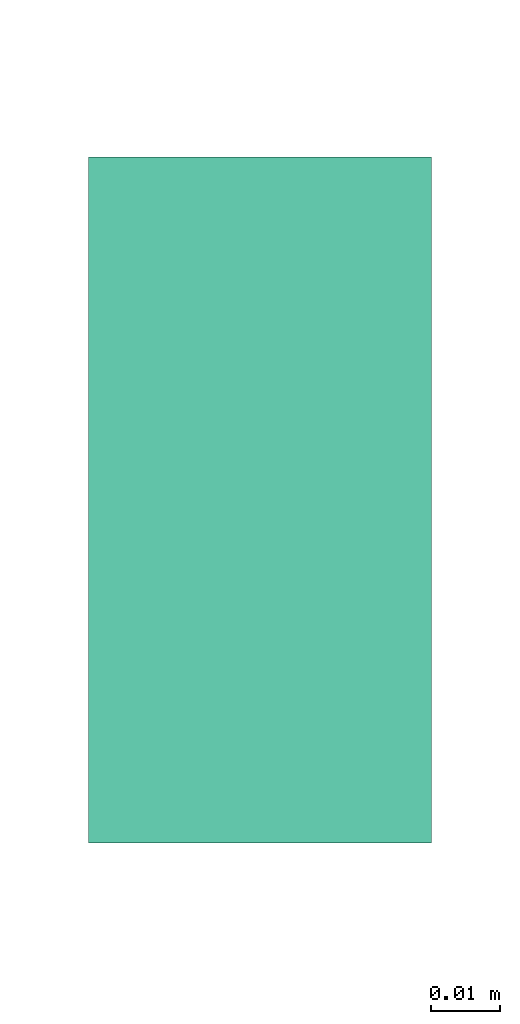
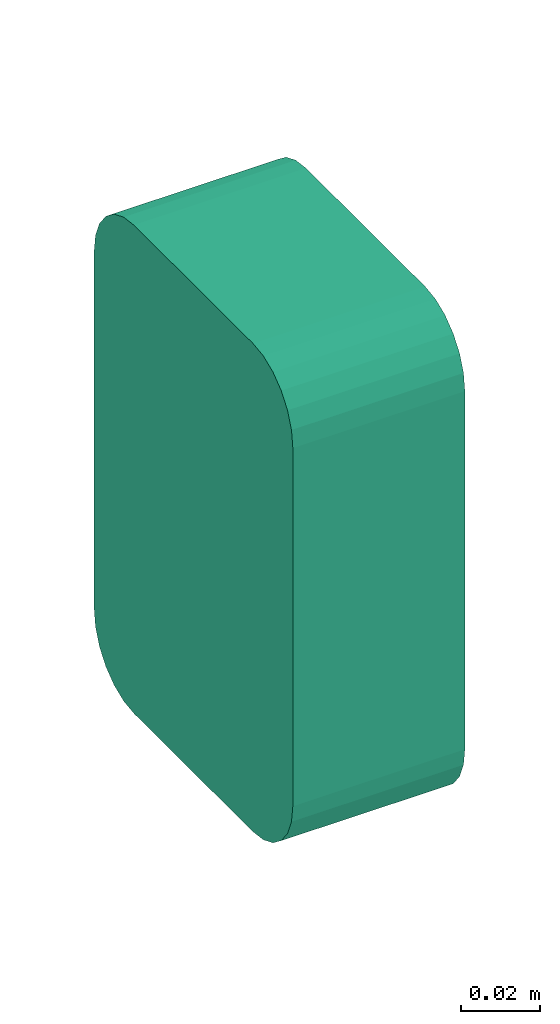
# One storey, part 2 of 3: 1 flow terminal.
"""IFC2X3 building model written with IfcOpenShell, lengths in millimetres."""

from ifc_helpers import new_model, entity, si_unit, converted_unit, derived_unit, direction, frame, origin_with_axes, place, context, subcontext, project, spatial, open_shell, surface_model, source, transform, mapped, type_object, element, save


model = new_model("IFC2X3")

# Units and contexts
model_context = context("Model", 3, precision=0.01, world=frame((0.0, 4.29681676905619e-09, 0.0)), true_north=direction((4.01073788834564e-13, 1.0)))
plan_context = context("Plan", 3, precision=0.01, world=frame((0.0, 4.29681676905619e-09, 0.0)), true_north=direction((4.01073788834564e-13, 1.0)))
body_context = subcontext(model_context, "Body", "Model", "MODEL_VIEW")
ifc_project = project(units=[converted_unit("PLANEANGLEUNIT", "DEGREE", entity("IfcPositiveLengthMeasure", 0.0174532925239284), si_unit("PLANEANGLEUNIT", "RADIAN"), dimensions=[0, 0, 0, 0, 0, 0, 0]), si_unit("AREAUNIT", "SQUARE_METRE"), si_unit("LENGTHUNIT", "METRE", prefix="MILLI"), si_unit("MASSUNIT", "GRAM", prefix="KILO"), si_unit("POWERUNIT", "WATT"), si_unit("PRESSUREUNIT", "PASCAL", prefix="KILO"), si_unit("FORCEUNIT", "NEWTON", prefix="KILO"), si_unit("ELECTRICVOLTAGEUNIT", "VOLT"), si_unit("ELECTRICCURRENTUNIT", "AMPERE"), si_unit("THERMODYNAMICTEMPERATUREUNIT", "DEGREE_CELSIUS"), si_unit("TIMEUNIT", "SECOND"), si_unit("VOLUMEUNIT", "CUBIC_METRE"), derived_unit("LINEARVELOCITYUNIT", [(si_unit("LENGTHUNIT", "METRE"), 1), (si_unit("TIMEUNIT", "SECOND"), -1)]), derived_unit("VOLUMETRICFLOWRATEUNIT", [(si_unit("VOLUMEUNIT", "CUBIC_METRE"), 1), (si_unit("TIMEUNIT", "SECOND"), -1)]), derived_unit("THERMALTRANSMITTANCEUNIT", [(si_unit("POWERUNIT", "WATT"), 1), (si_unit("THERMODYNAMICTEMPERATUREUNIT", "KELVIN"), -1), (si_unit("AREAUNIT", "SQUARE_METRE"), -1)]), derived_unit("SOUNDPRESSUREUNIT", [(si_unit("PRESSUREUNIT", "PASCAL"), 1)])], contexts=[model_context, plan_context])

# Site, building, storey
site_placement = place(None, frame((0.0, -4.29681676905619e-09, 0.0), z_axis=(0.0, 0.0, 1.0), x_axis=(1.0, 0.0, 0.0)))
site = spatial("IfcSite", under=ifc_project, at=site_placement, Name="ENGM", CompositionType="ELEMENT")
building_placement = place(site_placement, frame((0.0, 4.29681676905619e-09, 0.0), z_axis=(0.0, 0.0, 1.0), x_axis=(1.0, 0.0, 0.0)))
building = spatial("IfcBuilding", under=site, at=building_placement, Name="TS", CompositionType="ELEMENT")
storey_placement = place(building_placement, frame((0.0, 0.0, 210900.0), z_axis=(0.0, 0.0, 1.0), x_axis=(1.0, 0.0, 0.0)))
storey = spatial("IfcBuildingStorey", under=building, at=storey_placement, Name="Nivå F", CompositionType="ELEMENT", Elevation=210900.0)

# Flow terminal
electric_appliance_type = type_object("IfcElectricApplianceType", Name="Høyttaler påvegg", PredefinedType="NOTDEFINED")
shared_shape = source(origin_with_axes(), body_context, "Body", "SurfaceModel", [
    surface_model("IfcShellBasedSurfaceModel", [(45.2, 28.66025, 35.0), (45.2, 30.0, 30.0), (45.2, 29.65926, 32.58819), (45.2, 20.0, 40.0), (45.2, 27.07107, 37.07107), (45.2, 25.0, 38.66025), (45.2, 22.58819, 39.65926), (45.2, 15.0, 38.66025), (45.2, 29.65926, 27.41181), (45.2, 27.07107, 22.92893), (45.2, 28.66025, 25.0), (45.2, 20.0, 20.0), (45.2, 25.0, 21.33974), (45.2, 22.58819, 20.34074), (45.2, 11.33975, 35.0), (45.2, 12.92893, 37.07107), (45.2, 10.34074, 32.58819), (45.2, 10.0, 30.0), (45.2, 10.34074, 27.41181), (45.2, 17.41181, 20.34074), (45.2, 12.92893, 22.92893), (45.2, 15.0, 21.33974), (45.2, 11.33975, 25.0), (45.2, 17.41181, 39.65926), (45.2, -11.33975, 45.0), (45.2, -10.0, 40.0), (45.2, -10.34074, 42.58819), (45.2, -15.0, 48.66025), (45.2, -12.92893, 47.07107), (45.2, -15.0, 31.33975), (45.2, -17.41181, 49.65926), (45.2, -27.07107, 32.92893), (45.2, -10.34074, 37.41181), (45.2, -11.33975, 35.0), (45.2, -12.92893, 32.92893), (45.2, -20.0, 30.0), (45.2, -17.41181, 30.34074), (45.2, -20.0, 50.0), (45.2, -22.58819, 49.65926), (45.2, -25.0, 48.66025), (45.2, -27.07107, 47.07107), (45.2, -29.65926, 42.58819), (45.2, -30.0, 40.0), (45.2, -28.66025, 45.0), (45.2, -22.58819, 30.34074), (45.2, -25.0, 31.33975), (45.2, -28.66025, 35.0), (45.2, -29.65926, 37.41181), (45.0, 10.0, 30.0), (45.0, 10.34074, 32.58819), (45.0, 11.33975, 35.0), (45.0, 12.92893, 22.92893), (45.0, 15.0, 38.66025), (45.0, 12.92893, 37.07107), (45.0, 29.65926, 27.41181), (45.0, 20.0, 20.0), (45.0, 10.34074, 27.41181), (45.0, 11.33975, 25.0), (45.0, 17.41181, 20.34074), (45.0, 15.0, 21.33974), (45.0, 17.41181, 39.65926), (45.0, 20.0, 40.0), (45.0, 22.58819, 39.65926), (45.0, 25.0, 38.66025), (45.0, 28.66025, 35.0), (45.0, 30.0, 30.0), (45.0, 27.07107, 37.07107), (45.0, 29.65926, 32.58819), (45.0, 27.07107, 22.92893), (45.0, 25.0, 21.33974), (45.0, 22.58819, 20.34074), (45.0, 28.66025, 25.0), (45.0, -29.65926, 42.58819), (45.0, -27.07107, 32.92893), (45.0, -30.0, 40.0), (45.0, -27.07107, 47.07107), (45.0, -28.66025, 45.0), (45.0, -25.0, 48.66025), (45.0, -22.58819, 49.65926), (45.0, -28.66025, 35.0), (45.0, -29.65926, 37.41181), (45.0, -22.58819, 30.34074), (45.0, -25.0, 31.33975), (45.0, -20.0, 30.0), (45.0, -17.41181, 30.34074), (45.0, -17.41181, 49.65926), (45.0, -15.0, 48.66025), (45.0, -11.33975, 45.0), (45.0, -15.0, 31.33975), (45.0, -12.92893, 47.07107), (45.0, -10.34074, 42.58819), (45.0, -11.33975, 35.0), (45.0, -12.92893, 32.92893), (45.0, -10.34074, 37.41181), (45.0, -10.0, 40.0), (45.0, -20.0, 50.0), (45.2, 38.63703, -9.64724), (45.2, 34.64102, 0.0), (45.2, 28.28427, 8.28427), (45.2, 20.0, 14.64102), (45.2, 10.35276, 18.63703), (45.2, 0.0, 20.0), (45.2, 28.28427, -48.28427), (45.2, 38.63703, -30.35276), (45.2, 34.64102, -40.0), (45.2, 40.0, -20.0), (45.2, 10.35276, -58.63703), (45.2, 20.0, -54.64101), (45.2, -20.0, -54.64101), (45.2, -10.35276, 18.63703), (45.2, -20.0, 14.64102), (45.2, -28.28427, 8.28427), (45.2, -34.64102, 0.0), (45.2, -38.63703, -9.64724), (45.2, -40.0, -20.0), (45.2, -28.28427, -48.28427), (45.2, 0.0, -60.0), (45.2, -10.35276, -58.63703), (45.2, -38.63703, -30.35276), (45.2, -34.64102, -40.0), (45.0, -40.0, -20.0), (45.0, -38.63703, -9.64724), (45.0, -34.64102, 0.0), (45.0, -28.28427, -48.28427), (45.0, -28.28427, 8.28427), (45.0, -20.0, 14.64102), (45.0, -10.35276, 18.63703), (45.0, 38.63703, -9.64724), (45.0, -20.0, -54.64101), (45.0, -38.63703, -30.35276), (45.0, -34.64102, -40.0), (45.0, 0.0, -60.0), (45.0, -10.35276, -58.63703), (45.0, 28.28427, -48.28427), (45.0, 0.0, 20.0), (45.0, 10.35276, 18.63703), (45.0, 20.0, 14.64102), (45.0, 28.28427, 8.28427), (45.0, 34.64102, 0.0), (45.0, 10.35276, -58.63703), (45.0, 20.0, -54.64101), (45.0, 38.63703, -30.35276), (45.0, 34.64102, -40.0), (45.0, 40.0, -20.0), (50.0, -46.45448, -64.5), (50.0, -47.32051, -65.0), (50.0, -43.43503, -68.43503), (50.0, -49.31851, -60.17638), (50.0, -50.0, -55.0), (50.0, -48.35259, -59.91756), (50.0, -49.0, -55.0), (50.0, -49.0, 55.0), (50.0, -44.14214, -69.14214), (50.0, -34.91756, -73.35259), (50.0, -35.17638, -74.31852), (50.0, -30.0, -75.0), (50.0, -30.0, -74.0), (50.0, 30.0, -74.0), (50.0, -39.5, -71.45448), (50.0, -40.0, -72.32051), (50.0, -50.0, 55.0), (50.0, -48.35259, 59.91756), (50.0, -49.31851, 60.17638), (50.0, -47.32051, 65.0), (50.0, -46.45448, 64.5), (50.0, -43.43503, 68.43503), (50.0, -44.14214, 69.14214), (50.0, -39.5, 71.45448), (50.0, -40.0, 72.32051), (50.0, -35.17638, 74.31852), (50.0, -34.91756, 73.35259), (50.0, -30.0, 75.0), (50.0, -30.0, 74.0), (50.0, 30.0, 74.0), (50.0, 34.91756, -73.35259), (50.0, 30.0, -75.0), (50.0, 35.17638, -74.31852), (50.0, 39.5, -71.45448), (50.0, 44.14214, -69.14214), (50.0, 43.43503, -68.43503), (50.0, 40.0, -72.32051), (50.0, 47.32051, -65.0), (50.0, 46.45448, -64.5), (50.0, 49.31851, -60.17638), (50.0, 49.0, -55.0), (50.0, 48.35259, -59.91756), (50.0, 50.0, -55.0), (50.0, 49.0, 55.0), (50.0, 40.0, 72.32051), (50.0, 39.5, 71.45448), (50.0, 44.14214, 69.14214), (50.0, 43.43503, 68.43503), (50.0, 35.17638, 74.31852), (50.0, 30.0, 75.0), (50.0, 34.91756, 73.35259), (50.0, 48.35259, 59.91756), (50.0, 50.0, 55.0), (50.0, 49.31851, 60.17638), (50.0, 47.32051, 65.0), (50.0, 46.45448, 64.5), (0.0, 30.0, -75.0), (0.0, 50.0, -55.0), (0.0, 49.31851, -60.17638), (0.0, 47.32051, -65.0), (0.0, 35.17638, -74.31852), (0.0, 40.0, -72.32051), (0.0, 44.14214, -69.14214), (0.0, -50.0, -55.0), (0.0, 50.0, 55.0), (0.0, 47.32051, 65.0), (0.0, 49.31851, 60.17638), (0.0, 40.0, 72.32051), (0.0, 44.14214, 69.14214), (0.0, 30.0, 75.0), (0.0, 35.17638, 74.31852), (0.0, -50.0, 55.0), (0.0, -30.0, -75.0), (0.0, -35.17638, -74.31852), (0.0, -40.0, -72.32051), (0.0, -47.32051, -65.0), (0.0, -49.31851, -60.17638), (0.0, -44.14214, -69.14214), (0.0, -30.0, 75.0), (0.0, -40.0, 72.32051), (0.0, -35.17638, 74.31852), (0.0, -44.14214, 69.14214), (0.0, -49.31851, 60.17638), (0.0, -47.32051, 65.0), (45.0, -48.35259, 59.91756), (45.0, -49.0, 55.0), (45.0, -30.0, 74.0), (45.0, -46.45448, 64.5), (45.0, -43.43503, 68.43503), (45.0, -34.91756, 73.35259), (45.0, -39.5, 71.45448), (45.0, 49.0, -55.0), (45.0, -49.0, -55.0), (45.0, -48.35259, -59.91756), (45.0, -46.45448, -64.5), (45.0, -43.43503, -68.43503), (45.0, -39.5, -71.45448), (45.0, -34.91756, -73.35259), (45.0, -30.0, -74.0), (45.0, 30.0, -74.0), (45.0, 49.0, 55.0), (45.0, 39.5, 71.45448), (45.0, 34.91756, 73.35259), (45.0, 30.0, 74.0), (45.0, 48.35259, 59.91756), (45.0, 46.45448, 64.5), (45.0, 43.43503, 68.43503), (45.0, 39.5, -71.45448), (45.0, 43.43503, -68.43503), (45.0, 34.91756, -73.35259), (45.0, 48.35259, -59.91756), (45.0, 46.45448, -64.5)], [open_shell([[[0, 1, 2]], [[3, 0, 4]], [[5, 6, 3]], [[5, 3, 4]], [[7, 1, 0]], [[8, 9, 10]], [[7, 8, 1]], [[7, 9, 8]], [[9, 11, 12]], [[12, 11, 13]], [[7, 0, 3]], [[11, 9, 7]], [[14, 7, 15]], [[14, 16, 17]], [[14, 17, 7]], [[18, 7, 17]], [[19, 20, 21]], [[20, 19, 11]], [[20, 18, 22]], [[20, 11, 7]], [[7, 18, 20]], [[7, 3, 23]], [[24, 25, 26]], [[27, 24, 28]], [[29, 27, 30]], [[24, 27, 25]], [[30, 31, 29]], [[32, 29, 33]], [[32, 25, 27]], [[33, 29, 34]], [[27, 29, 32]], [[29, 35, 36]], [[30, 37, 38]], [[38, 39, 40]], [[31, 38, 40]], [[41, 42, 40]], [[41, 40, 43]], [[31, 40, 42]], [[44, 31, 45]], [[31, 44, 35]], [[42, 46, 31]], [[35, 29, 31]], [[47, 46, 42]], [[31, 30, 38]], [[48, 49, 50]], [[51, 48, 50]], [[51, 50, 52]], [[52, 50, 53]], [[54, 55, 52]], [[56, 51, 57]], [[56, 48, 51]], [[51, 58, 59]], [[58, 51, 55]], [[52, 55, 51]], [[52, 60, 61]], [[61, 62, 63]], [[61, 63, 64]], [[64, 65, 52]], [[64, 63, 66]], [[65, 64, 67]], [[68, 69, 55]], [[70, 55, 69]], [[68, 54, 71]], [[55, 54, 68]], [[52, 65, 54]], [[52, 61, 64]], [[72, 73, 74]], [[75, 72, 76]], [[75, 77, 78]], [[72, 75, 73]], [[78, 73, 75]], [[74, 79, 80]], [[74, 73, 79]], [[73, 81, 82]], [[81, 73, 83]], [[73, 84, 83]], [[73, 78, 84]], [[84, 78, 85]], [[86, 84, 85]], [[86, 87, 88]], [[87, 86, 89]], [[87, 90, 88]], [[88, 91, 92]], [[88, 84, 86]], [[88, 93, 91]], [[93, 88, 94]], [[90, 94, 88]], [[85, 78, 95]], [[12, 70, 69]], [[13, 55, 70]], [[10, 68, 71]], [[68, 9, 69]], [[54, 8, 71]], [[70, 12, 13]], [[13, 11, 55]], [[8, 10, 71]], [[9, 68, 10]], [[9, 12, 69]], [[1, 8, 54]], [[54, 65, 1]], [[0, 67, 64]], [[65, 67, 2]], [[63, 5, 66]], [[64, 66, 4]], [[6, 63, 62]], [[64, 4, 0]], [[0, 2, 67]], [[3, 6, 62]], [[5, 63, 6]], [[5, 4, 66]], [[61, 3, 62]], [[65, 2, 1]], [[60, 23, 61]], [[52, 7, 60]], [[14, 53, 50]], [[53, 15, 52]], [[50, 49, 16]], [[60, 7, 23]], [[23, 3, 61]], [[16, 14, 50]], [[15, 53, 14]], [[15, 7, 52]], [[17, 16, 49]], [[49, 48, 17]], [[56, 18, 48]], [[57, 22, 56]], [[21, 51, 59]], [[20, 57, 51]], [[59, 58, 19]], [[57, 20, 22]], [[22, 18, 56]], [[11, 19, 58]], [[21, 59, 19]], [[21, 20, 51]], [[55, 11, 58]], [[48, 18, 17]], [[29, 84, 88]], [[36, 83, 84]], [[33, 92, 91]], [[92, 34, 88]], [[93, 32, 91]], [[84, 29, 36]], [[36, 35, 83]], [[32, 33, 91]], [[34, 92, 33]], [[34, 29, 88]], [[25, 32, 93]], [[93, 94, 25]], [[26, 94, 90]], [[87, 24, 90]], [[86, 27, 89]], [[87, 89, 28]], [[30, 86, 85]], [[87, 28, 24]], [[24, 26, 90]], [[37, 30, 85]], [[27, 86, 30]], [[27, 28, 89]], [[95, 37, 85]], [[94, 26, 25]], [[38, 95, 78]], [[77, 39, 78]], [[43, 75, 76]], [[75, 40, 77]], [[72, 41, 76]], [[78, 39, 38]], [[38, 37, 95]], [[41, 43, 76]], [[40, 75, 43]], [[40, 39, 77]], [[42, 41, 72]], [[72, 74, 42]], [[80, 47, 74]], [[79, 46, 80]], [[45, 73, 82]], [[31, 79, 73]], [[82, 81, 44]], [[79, 31, 46]], [[46, 47, 80]], [[35, 44, 81]], [[45, 82, 44]], [[45, 31, 73]], [[83, 35, 81]], [[74, 47, 42]], [[96, 97, 98]], [[96, 98, 99]], [[99, 100, 101]], [[96, 99, 102]], [[102, 99, 101]], [[103, 102, 104]], [[103, 105, 96]], [[102, 106, 107]], [[103, 96, 102]], [[102, 108, 106]], [[102, 101, 109]], [[109, 110, 111]], [[102, 111, 108]], [[112, 113, 114]], [[108, 111, 112]], [[115, 112, 114]], [[116, 108, 117]], [[106, 108, 116]], [[115, 118, 119]], [[108, 112, 115]], [[114, 118, 115]], [[102, 109, 111]], [[120, 121, 122]], [[123, 120, 122]], [[124, 125, 126]], [[123, 122, 124]], [[127, 128, 124]], [[129, 123, 130]], [[129, 120, 123]], [[128, 131, 132]], [[128, 123, 124]], [[133, 131, 128]], [[127, 124, 126]], [[134, 135, 136]], [[127, 126, 136]], [[137, 138, 127]], [[137, 127, 136]], [[128, 127, 133]], [[139, 133, 140]], [[131, 133, 139]], [[133, 141, 142]], [[133, 127, 141]], [[143, 141, 127]], [[136, 126, 134]], [[106, 131, 139]], [[140, 107, 139]], [[142, 104, 133]], [[133, 102, 140]], [[103, 142, 141]], [[139, 107, 106]], [[106, 116, 131]], [[103, 104, 142]], [[102, 133, 104]], [[102, 107, 140]], [[105, 103, 141]], [[141, 143, 105]], [[127, 96, 143]], [[138, 97, 127]], [[99, 137, 136]], [[138, 137, 98]], [[100, 136, 135]], [[138, 98, 97]], [[97, 96, 127]], [[101, 100, 135]], [[99, 136, 100]], [[99, 98, 137]], [[134, 101, 135]], [[143, 96, 105]], [[126, 109, 134]], [[125, 110, 126]], [[112, 124, 122]], [[125, 124, 111]], [[113, 122, 121]], [[126, 110, 109]], [[109, 101, 134]], [[113, 112, 122]], [[111, 124, 112]], [[111, 110, 125]], [[114, 113, 121]], [[121, 120, 114]], [[129, 118, 120]], [[130, 119, 129]], [[108, 123, 128]], [[130, 123, 115]], [[117, 128, 132]], [[130, 115, 119]], [[119, 118, 129]], [[116, 117, 132]], [[108, 128, 117]], [[108, 115, 123]], [[131, 116, 132]], [[120, 118, 114]], [[144, 145, 146]], [[145, 144, 147]], [[148, 147, 149]], [[149, 150, 148]], [[147, 144, 149]], [[148, 150, 151]], [[146, 145, 152]], [[153, 154, 155]], [[156, 155, 157]], [[153, 155, 156]], [[152, 158, 146]], [[158, 152, 159]], [[158, 159, 154]], [[154, 153, 158]], [[160, 151, 161]], [[151, 160, 148]], [[160, 161, 162]], [[163, 162, 164]], [[163, 165, 166]], [[164, 165, 163]], [[162, 161, 164]], [[167, 168, 166]], [[168, 167, 169]], [[167, 166, 165]], [[169, 170, 171]], [[170, 169, 167]], [[171, 172, 173]], [[172, 171, 170]], [[174, 157, 175]], [[175, 157, 155]], [[174, 175, 176]], [[174, 176, 177]], [[177, 178, 179]], [[178, 177, 180]], [[176, 180, 177]], [[181, 182, 179]], [[182, 181, 183]], [[184, 185, 186]], [[183, 186, 185]], [[185, 182, 183]], [[184, 186, 187]], [[179, 178, 181]], [[188, 189, 190]], [[190, 189, 191]], [[189, 188, 192]], [[173, 193, 171]], [[193, 173, 194]], [[194, 192, 193]], [[192, 194, 189]], [[195, 187, 196]], [[196, 187, 186]], [[195, 196, 197]], [[191, 198, 190]], [[191, 199, 198]], [[197, 198, 199]], [[199, 195, 197]], [[200, 201, 202]], [[200, 202, 203]], [[204, 200, 205]], [[206, 205, 200]], [[200, 203, 206]], [[207, 208, 201]], [[208, 209, 210]], [[209, 208, 211]], [[212, 209, 211]], [[213, 214, 211]], [[208, 213, 211]], [[213, 208, 215]], [[201, 200, 216]], [[216, 217, 218]], [[216, 218, 219]], [[219, 207, 216]], [[220, 207, 219]], [[219, 218, 221]], [[207, 215, 208]], [[222, 223, 224]], [[223, 222, 225]], [[215, 226, 227]], [[225, 222, 227]], [[227, 222, 215]], [[213, 215, 222]], [[201, 216, 207]], [[175, 155, 200]], [[216, 200, 155]], [[176, 204, 205]], [[180, 205, 206]], [[200, 204, 175]], [[175, 204, 176]], [[205, 180, 176]], [[206, 178, 180]], [[181, 203, 202]], [[183, 202, 201]], [[178, 203, 181]], [[181, 202, 183]], [[201, 186, 183]], [[203, 178, 206]], [[196, 186, 208]], [[201, 208, 186]], [[197, 210, 209]], [[198, 209, 212]], [[208, 210, 196]], [[196, 210, 197]], [[209, 198, 197]], [[212, 190, 198]], [[188, 211, 214]], [[192, 214, 213]], [[190, 211, 188]], [[188, 214, 192]], [[213, 193, 192]], [[211, 190, 212]], [[171, 193, 222]], [[213, 222, 193]], [[169, 224, 223]], [[168, 223, 225]], [[222, 224, 171]], [[171, 224, 169]], [[223, 168, 169]], [[225, 166, 168]], [[163, 227, 226]], [[162, 226, 215]], [[166, 227, 163]], [[163, 226, 162]], [[215, 160, 162]], [[227, 166, 225]], [[148, 160, 207]], [[215, 207, 160]], [[147, 220, 219]], [[145, 219, 221]], [[207, 220, 148]], [[148, 220, 147]], [[219, 145, 147]], [[221, 152, 145]], [[159, 218, 217]], [[154, 217, 216]], [[152, 218, 159]], [[159, 217, 154]], [[216, 155, 154]], [[218, 152, 221]], [[228, 229, 230]], [[231, 228, 232]], [[233, 228, 230]], [[233, 234, 232]], [[233, 232, 228]], [[235, 229, 236]], [[237, 238, 236]], [[239, 236, 238]], [[240, 236, 239]], [[240, 241, 242]], [[240, 242, 236]], [[243, 236, 242]], [[230, 229, 244]], [[245, 246, 247]], [[248, 245, 247]], [[245, 248, 249]], [[248, 247, 244]], [[249, 250, 245]], [[229, 235, 244]], [[251, 252, 253]], [[243, 253, 235]], [[252, 254, 235]], [[254, 252, 255]], [[253, 252, 235]], [[243, 235, 236]], [[244, 247, 230]], [[172, 230, 247]], [[247, 173, 172]], [[194, 173, 246]], [[189, 194, 245]], [[246, 173, 247]], [[194, 246, 245]], [[189, 245, 250]], [[250, 191, 189]], [[199, 191, 249]], [[195, 199, 248]], [[248, 199, 249]], [[195, 248, 244]], [[195, 244, 187]], [[250, 249, 191]], [[187, 244, 235]], [[235, 184, 187]], [[185, 184, 254]], [[182, 185, 255]], [[254, 184, 235]], [[185, 254, 255]], [[182, 255, 252]], [[252, 179, 182]], [[177, 179, 251]], [[174, 177, 253]], [[253, 177, 251]], [[174, 253, 243]], [[174, 243, 157]], [[252, 251, 179]], [[157, 243, 242]], [[242, 156, 157]], [[153, 156, 241]], [[158, 153, 240]], [[241, 156, 242]], [[153, 241, 240]], [[158, 240, 239]], [[239, 146, 158]], [[144, 146, 238]], [[149, 144, 237]], [[237, 144, 238]], [[149, 237, 236]], [[149, 236, 150]], [[239, 238, 146]], [[150, 236, 229]], [[229, 151, 150]], [[161, 151, 228]], [[164, 161, 231]], [[228, 151, 229]], [[161, 228, 231]], [[164, 231, 232]], [[232, 165, 164]], [[167, 165, 234]], [[170, 167, 233]], [[233, 167, 234]], [[170, 233, 230]], [[170, 230, 172]], [[232, 234, 165]], [[187, 195, 199]], [[187, 199, 189]], [[173, 187, 194]], [[194, 187, 189]], [[199, 191, 189]], [[150, 184, 187]], [[184, 182, 185]], [[182, 184, 174]], [[177, 179, 174]], [[174, 179, 182]], [[184, 157, 174]], [[157, 184, 150]], [[187, 173, 151]], [[151, 172, 170]], [[165, 170, 167]], [[164, 151, 170]], [[161, 151, 164]], [[164, 170, 165]], [[151, 150, 187]], [[153, 146, 158]], [[150, 153, 156]], [[150, 149, 146]], [[144, 146, 149]], [[150, 146, 153]], [[157, 150, 156]], [[173, 172, 151]], [[229, 228, 231]], [[229, 231, 233]], [[230, 229, 233]], [[232, 234, 233]], [[231, 232, 233]], [[244, 236, 229]], [[236, 238, 237]], [[238, 236, 239]], [[240, 239, 241]], [[241, 239, 236]], [[236, 242, 241]], [[242, 236, 243]], [[229, 230, 247]], [[244, 247, 246]], [[244, 246, 245]], [[249, 244, 245]], [[248, 244, 249]], [[249, 245, 250]], [[235, 236, 244]], [[253, 252, 251]], [[235, 253, 243]], [[235, 254, 255]], [[252, 253, 255]], [[255, 253, 235]], [[236, 235, 243]], [[244, 229, 247]], [[170, 230, 233]], [[167, 233, 234]], [[172, 230, 170]], [[167, 170, 233]], [[165, 167, 234]], [[234, 232, 165]], [[164, 232, 231]], [[161, 231, 228]], [[164, 231, 161]], [[151, 161, 228]], [[229, 151, 228]], [[232, 164, 165]], [[150, 151, 236]], [[229, 236, 151]], [[149, 236, 237]], [[144, 237, 238]], [[150, 236, 149]], [[144, 149, 237]], [[146, 144, 238]], [[238, 239, 146]], [[158, 239, 240]], [[153, 240, 241]], [[158, 240, 153]], [[156, 153, 241]], [[242, 156, 241]], [[239, 158, 146]], [[157, 156, 243]], [[242, 243, 156]], [[174, 243, 253]], [[177, 253, 251]], [[157, 243, 174]], [[177, 174, 253]], [[179, 177, 251]], [[251, 252, 179]], [[182, 252, 255]], [[185, 255, 254]], [[182, 255, 185]], [[184, 185, 254]], [[235, 184, 254]], [[252, 182, 179]], [[187, 184, 244]], [[235, 244, 184]], [[195, 244, 248]], [[199, 248, 249]], [[187, 244, 195]], [[199, 195, 248]], [[191, 199, 249]], [[249, 250, 191]], [[189, 250, 245]], [[194, 245, 246]], [[189, 245, 194]], [[173, 194, 246]], [[247, 173, 246]], [[250, 189, 191]], [[172, 173, 230]], [[247, 230, 173]]])]),
])
flow_terminal_placement = place(storey_placement, frame((719308.62858, 435596.55652, 2800.0), z_axis=(0.0, 0.0, 1.0), x_axis=(1.0, 0.0, 0.0)))
element("IfcFlowTerminal", 1, at=flow_terminal_placement, inside=storey, type_object=electric_appliance_type, Name="Høyttaler påvegg", context=body_context, shape_type="MappedRepresentation", body=[
    mapped(shared_shape, transform((0.0, 0.0, 0.0), scale=1.0)),
])

save(model, "model.ifc")
